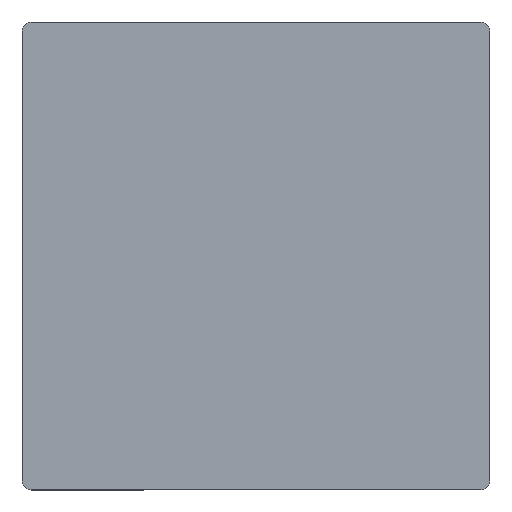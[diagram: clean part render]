
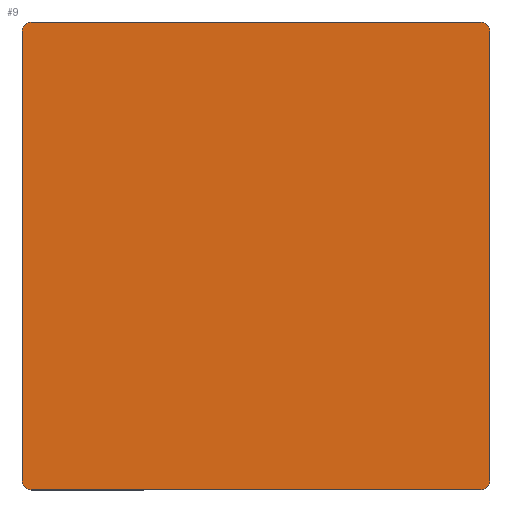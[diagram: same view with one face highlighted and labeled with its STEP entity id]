
A CAD part, top view. The second image highlights one B-rep face of the part: STEP entity #9.
In plain terms, the highlighted planar face has unit normal (0, 0, 1).
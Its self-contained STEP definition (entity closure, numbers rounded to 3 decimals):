
#2 = LINE ( 'NONE', #26, #286 ) ;
#3 = DIRECTION ( 'NONE',  ( 1., 0., 0. ) ) ;
#6 = DIRECTION ( 'NONE',  ( 0., -1., 0. ) ) ;
#9 = ADVANCED_FACE ( 'NONE', ( #172 ), #100, .T. ) ;
#10 = EDGE_CURVE ( 'NONE', #298, #269, #101, .T. ) ;
#16 = VERTEX_POINT ( 'NONE', #287 ) ;
#18 = VERTEX_POINT ( 'NONE', #48 ) ;
#26 = CARTESIAN_POINT ( 'NONE',  ( 50., -50., 8. ) ) ;
#27 = CARTESIAN_POINT ( 'NONE',  ( 48., -48., 8. ) ) ;
#30 = DIRECTION ( 'NONE',  ( 1., 0., 0. ) ) ;
#31 = DIRECTION ( 'NONE',  ( 0., 1., 0. ) ) ;
#44 = AXIS2_PLACEMENT_3D ( 'NONE', #156, #256, #212 ) ;
#48 = CARTESIAN_POINT ( 'NONE',  ( 48., -50., 8. ) ) ;
#52 = VERTEX_POINT ( 'NONE', #75 ) ;
#61 = ORIENTED_EDGE ( 'NONE', *, *, #222, .T. ) ;
#69 = ORIENTED_EDGE ( 'NONE', *, *, #95, .T. ) ;
#75 = CARTESIAN_POINT ( 'NONE',  ( -48., 50., 8. ) ) ;
#78 = CARTESIAN_POINT ( 'NONE',  ( -50., 48., 8. ) ) ;
#79 = CARTESIAN_POINT ( 'NONE',  ( 48., 50., 8. ) ) ;
#88 = EDGE_CURVE ( 'NONE', #16, #294, #257, .T. ) ;
#89 = ORIENTED_EDGE ( 'NONE', *, *, #157, .T. ) ;
#90 = VERTEX_POINT ( 'NONE', #78 ) ;
#93 = DIRECTION ( 'NONE',  ( -1., 0., 0. ) ) ;
#95 = EDGE_CURVE ( 'NONE', #18, #237, #133, .T. ) ;
#100 = PLANE ( 'NONE',  #292 ) ;
#101 = CIRCLE ( 'NONE', #250, 2. ) ;
#106 = VECTOR ( 'NONE', #6, 1000. ) ;
#111 = LINE ( 'NONE', #226, #170 ) ;
#115 = AXIS2_PLACEMENT_3D ( 'NONE', #27, #178, #3 ) ;
#126 = CARTESIAN_POINT ( 'NONE',  ( 48., 48., 8. ) ) ;
#133 = CIRCLE ( 'NONE', #115, 2. ) ;
#140 = ORIENTED_EDGE ( 'NONE', *, *, #164, .T. ) ;
#147 = DIRECTION ( 'NONE',  ( 0., 0., 1. ) ) ;
#156 = CARTESIAN_POINT ( 'NONE',  ( -48., 48., 8. ) ) ;
#157 = EDGE_CURVE ( 'NONE', #294, #18, #271, .T. ) ;
#158 = AXIS2_PLACEMENT_3D ( 'NONE', #208, #203, #309 ) ;
#164 = EDGE_CURVE ( 'NONE', #269, #52, #111, .T. ) ;
#170 = VECTOR ( 'NONE', #93, 1000. ) ;
#172 = FACE_OUTER_BOUND ( 'NONE', #297, .T. ) ;
#175 = CARTESIAN_POINT ( 'NONE',  ( -48., -50., 8. ) ) ;
#178 = DIRECTION ( 'NONE',  ( 0., 0., 1. ) ) ;
#183 = CARTESIAN_POINT ( 'NONE',  ( 50., -48., 8. ) ) ;
#188 = CIRCLE ( 'NONE', #44, 2. ) ;
#196 = ORIENTED_EDGE ( 'NONE', *, *, #315, .T. ) ;
#203 = DIRECTION ( 'NONE',  ( 0., 0., 1. ) ) ;
#205 = CARTESIAN_POINT ( 'NONE',  ( 0., 0., 8. ) ) ;
#206 = EDGE_CURVE ( 'NONE', #52, #90, #188, .T. ) ;
#208 = CARTESIAN_POINT ( 'NONE',  ( -48., -48., 8. ) ) ;
#212 = DIRECTION ( 'NONE',  ( 1., 0., 0. ) ) ;
#222 = EDGE_CURVE ( 'NONE', #90, #16, #310, .T. ) ;
#225 = ORIENTED_EDGE ( 'NONE', *, *, #10, .T. ) ;
#226 = CARTESIAN_POINT ( 'NONE',  ( -50., 50., 8. ) ) ;
#231 = VECTOR ( 'NONE', #278, 1000. ) ;
#237 = VERTEX_POINT ( 'NONE', #183 ) ;
#241 = CARTESIAN_POINT ( 'NONE',  ( -50., -50., 8. ) ) ;
#243 = ORIENTED_EDGE ( 'NONE', *, *, #206, .T. ) ;
#246 = CARTESIAN_POINT ( 'NONE',  ( -50., -50., 8. ) ) ;
#249 = ORIENTED_EDGE ( 'NONE', *, *, #88, .T. ) ;
#250 = AXIS2_PLACEMENT_3D ( 'NONE', #126, #147, #289 ) ;
#256 = DIRECTION ( 'NONE',  ( 0., 0., 1. ) ) ;
#257 = CIRCLE ( 'NONE', #158, 2. ) ;
#261 = DIRECTION ( 'NONE',  ( 0., 0., 1. ) ) ;
#262 = CARTESIAN_POINT ( 'NONE',  ( 50., 48., 8. ) ) ;
#269 = VERTEX_POINT ( 'NONE', #79 ) ;
#271 = LINE ( 'NONE', #246, #231 ) ;
#278 = DIRECTION ( 'NONE',  ( 1., 0., 0. ) ) ;
#286 = VECTOR ( 'NONE', #31, 1000. ) ;
#287 = CARTESIAN_POINT ( 'NONE',  ( -50., -48., 8. ) ) ;
#289 = DIRECTION ( 'NONE',  ( 1., 0., 0. ) ) ;
#292 = AXIS2_PLACEMENT_3D ( 'NONE', #205, #261, #30 ) ;
#294 = VERTEX_POINT ( 'NONE', #175 ) ;
#297 = EDGE_LOOP ( 'NONE', ( #61, #249, #89, #69, #196, #225, #140, #243 ) ) ;
#298 = VERTEX_POINT ( 'NONE', #262 ) ;
#309 = DIRECTION ( 'NONE',  ( 1., 0., 0. ) ) ;
#310 = LINE ( 'NONE', #241, #106 ) ;
#315 = EDGE_CURVE ( 'NONE', #237, #298, #2, .T. ) ;
